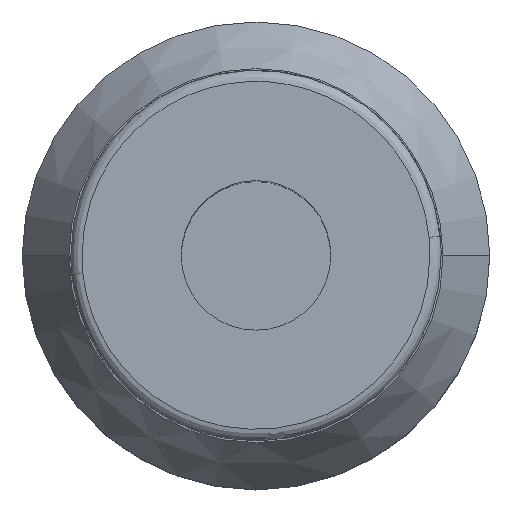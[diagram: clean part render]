
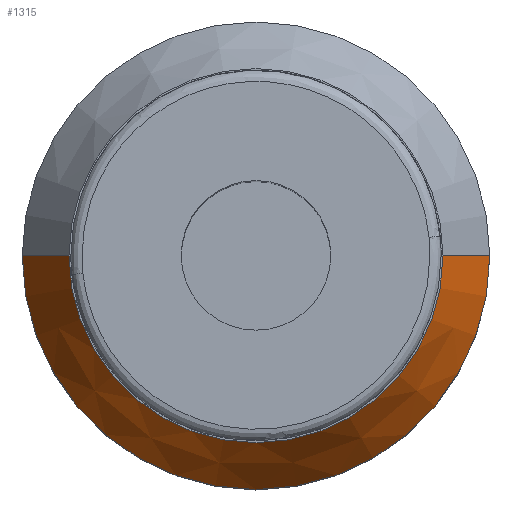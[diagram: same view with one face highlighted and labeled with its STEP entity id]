
A CAD part, top view. The second image highlights one B-rep face of the part: STEP entity #1315.
In plain terms, the highlighted conical face has half-angle 32.005 degrees and reference radius 6.25 mm.
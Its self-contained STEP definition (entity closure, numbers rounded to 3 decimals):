
#56 = CARTESIAN_POINT ( 'NONE',  ( 6.25, 0., 34. ) ) ;
#110 = VERTEX_POINT ( 'NONE', #245 ) ;
#231 = EDGE_CURVE ( 'NONE', #110, #1012, #432, .T. ) ;
#245 = CARTESIAN_POINT ( 'NONE',  ( -6.25, 0., 34. ) ) ;
#251 = ORIENTED_EDGE ( 'NONE', *, *, #231, .F. ) ;
#277 = ORIENTED_EDGE ( 'NONE', *, *, #1177, .F. ) ;
#309 = VERTEX_POINT ( 'NONE', #56 ) ;
#310 = CARTESIAN_POINT ( 'NONE',  ( 311902.5, 0., -499000. ) ) ;
#327 = DIRECTION ( 'NONE',  ( 0.53, 0., -0.848 ) ) ;
#368 = AXIS2_PLACEMENT_3D ( 'NONE', #755, #1639, #748 ) ;
#379 = ORIENTED_EDGE ( 'NONE', *, *, #520, .F. ) ;
#391 = VECTOR ( 'NONE', #1049, 1000. ) ;
#411 = AXIS2_PLACEMENT_3D ( 'NONE', #1327, #1072, #536 ) ;
#426 = CARTESIAN_POINT ( 'NONE',  ( -5., 0., 36. ) ) ;
#432 = LINE ( 'NONE', #437, #391 ) ;
#437 = CARTESIAN_POINT ( 'NONE',  ( -311902.5, 0., -499000. ) ) ;
#520 = EDGE_CURVE ( 'NONE', #1198, #309, #828, .T. ) ;
#536 = DIRECTION ( 'NONE',  ( 0., 1., 0. ) ) ;
#688 = FACE_OUTER_BOUND ( 'NONE', #1036, .T. ) ;
#703 = ORIENTED_EDGE ( 'NONE', *, *, #823, .T. ) ;
#748 = DIRECTION ( 'NONE',  ( 0., 1., 0. ) ) ;
#755 = CARTESIAN_POINT ( 'NONE',  ( 0., 0., 34. ) ) ;
#823 = EDGE_CURVE ( 'NONE', #1198, #1012, #1149, .T. ) ;
#828 = LINE ( 'NONE', #310, #882 ) ;
#849 = CIRCLE ( 'NONE', #856, 6.25 ) ;
#856 = AXIS2_PLACEMENT_3D ( 'NONE', #1353, #1371, #1379 ) ;
#882 = VECTOR ( 'NONE', #327, 1000. ) ;
#1012 = VERTEX_POINT ( 'NONE', #426 ) ;
#1036 = EDGE_LOOP ( 'NONE', ( #251, #277, #379, #703 ) ) ;
#1049 = DIRECTION ( 'NONE',  ( 0.53, 0., 0.848 ) ) ;
#1072 = DIRECTION ( 'NONE',  ( 0., 0., -1. ) ) ;
#1149 = CIRCLE ( 'NONE', #411, 5. ) ;
#1177 = EDGE_CURVE ( 'NONE', #309, #110, #849, .T. ) ;
#1198 = VERTEX_POINT ( 'NONE', #1519 ) ;
#1315 = ADVANCED_FACE ( '17', ( #688 ), #1361, .T. ) ;
#1327 = CARTESIAN_POINT ( 'NONE',  ( 0., 0., 36. ) ) ;
#1353 = CARTESIAN_POINT ( 'NONE',  ( 0., 0., 34. ) ) ;
#1361 = CONICAL_SURFACE ( 'NONE', #368, 6.25, 0.559 ) ;
#1371 = DIRECTION ( 'NONE',  ( 0., 0., -1. ) ) ;
#1379 = DIRECTION ( 'NONE',  ( 1., 0., 0. ) ) ;
#1519 = CARTESIAN_POINT ( 'NONE',  ( 5., 0., 36. ) ) ;
#1639 = DIRECTION ( 'NONE',  ( 0., 0., -1. ) ) ;
